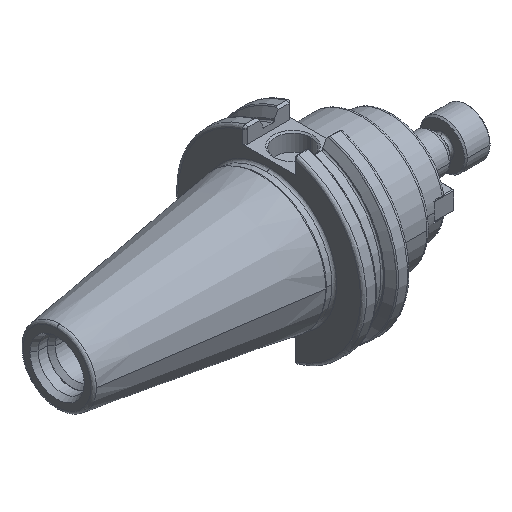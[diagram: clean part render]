
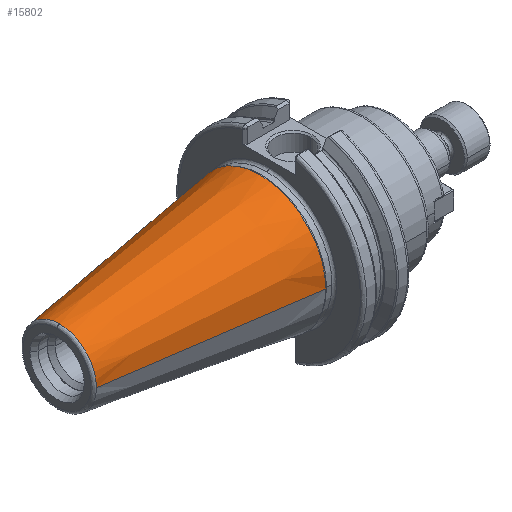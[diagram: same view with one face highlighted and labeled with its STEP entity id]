
A CAD part, isometric view. The second image highlights one B-rep face of the part: STEP entity #15802.
In plain terms, the highlighted conical face has half-angle 8.297 degrees and reference radius 22.225 mm.
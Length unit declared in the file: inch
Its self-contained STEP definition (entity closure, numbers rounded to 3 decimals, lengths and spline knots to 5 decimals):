
#306 = VECTOR ( 'NONE', #8852, 39.37008 ) ;
#415 = VERTEX_POINT ( 'NONE', #14983 ) ;
#707 = CARTESIAN_POINT ( 'NONE',  ( 0., 0.875, 0. ) ) ;
#2025 = CARTESIAN_POINT ( 'NONE',  ( 0., 0., 0. ) ) ;
#3071 = ORIENTED_EDGE ( 'NONE', *, *, #14013, .T. ) ;
#4152 = CARTESIAN_POINT ( 'NONE',  ( -2.65277, 0., 0. ) ) ;
#4821 = CARTESIAN_POINT ( 'NONE',  ( 0., -0.875, 0. ) ) ;
#5266 = CARTESIAN_POINT ( 'NONE',  ( -2.65277, 0., 0. ) ) ;
#5415 = AXIS2_PLACEMENT_3D ( 'NONE', #7047, #7682, #17685 ) ;
#5456 = EDGE_CURVE ( 'NONE', #9236, #13114, #9335, .T. ) ;
#5676 = CIRCLE ( 'NONE', #6584, 0.48814 ) ;
#5747 = VERTEX_POINT ( 'NONE', #13617 ) ;
#6584 = AXIS2_PLACEMENT_3D ( 'NONE', #5266, #16859, #17040 ) ;
#7047 = CARTESIAN_POINT ( 'NONE',  ( 0., 0., 0. ) ) ;
#7314 = FACE_OUTER_BOUND ( 'NONE', #15795, .T. ) ;
#7468 = ORIENTED_EDGE ( 'NONE', *, *, #14393, .T. ) ;
#7529 = VECTOR ( 'NONE', #15213, 39.37008 ) ;
#7682 = DIRECTION ( 'NONE',  ( 1., 0., 0. ) ) ;
#7799 = VERTEX_POINT ( 'NONE', #15462 ) ;
#8852 = DIRECTION ( 'NONE',  ( 0.99, -0.144, 0. ) ) ;
#9236 = VERTEX_POINT ( 'NONE', #12273 ) ;
#9319 = CONICAL_SURFACE ( 'NONE', #5415, 0.875, 0.145 ) ;
#9335 = LINE ( 'NONE', #707, #7529 ) ;
#11257 = DIRECTION ( 'NONE',  ( 1., 0., 0. ) ) ;
#11523 = AXIS2_PLACEMENT_3D ( 'NONE', #2025, #15975, #17569 ) ;
#12273 = CARTESIAN_POINT ( 'NONE',  ( -2.65277, 0.48814, 0. ) ) ;
#12343 = CIRCLE ( 'NONE', #18360, 0.48814 ) ;
#12344 = ORIENTED_EDGE ( 'NONE', *, *, #13009, .T. ) ;
#13009 = EDGE_CURVE ( 'NONE', #5747, #13114, #16337, .T. ) ;
#13114 = VERTEX_POINT ( 'NONE', #14841 ) ;
#13213 = LINE ( 'NONE', #4821, #306 ) ;
#13617 = CARTESIAN_POINT ( 'NONE',  ( 0., -0.875, 0. ) ) ;
#14013 = EDGE_CURVE ( 'NONE', #9236, #7799, #5676, .T. ) ;
#14192 = DIRECTION ( 'NONE',  ( 0., 1., 0. ) ) ;
#14393 = EDGE_CURVE ( 'NONE', #7799, #415, #12343, .T. ) ;
#14463 = EDGE_CURVE ( 'NONE', #415, #5747, #13213, .T. ) ;
#14841 = CARTESIAN_POINT ( 'NONE',  ( 0., 0.875, 0. ) ) ;
#14983 = CARTESIAN_POINT ( 'NONE',  ( -2.65277, -0.48814, 0. ) ) ;
#15213 = DIRECTION ( 'NONE',  ( 0.99, 0.144, 0. ) ) ;
#15462 = CARTESIAN_POINT ( 'NONE',  ( -2.65277, 0., 0.48814 ) ) ;
#15694 = ORIENTED_EDGE ( 'NONE', *, *, #14463, .T. ) ;
#15795 = EDGE_LOOP ( 'NONE', ( #3071, #7468, #15694, #12344, #18414 ) ) ;
#15802 = ADVANCED_FACE ( 'NONE', ( #7314 ), #9319, .T. ) ;
#15975 = DIRECTION ( 'NONE',  ( -1., 0., 0. ) ) ;
#16337 = CIRCLE ( 'NONE', #11523, 0.875 ) ;
#16859 = DIRECTION ( 'NONE',  ( 1., 0., 0. ) ) ;
#17040 = DIRECTION ( 'NONE',  ( 0., 1., 0. ) ) ;
#17569 = DIRECTION ( 'NONE',  ( 0., 1., 0. ) ) ;
#17685 = DIRECTION ( 'NONE',  ( 0., 1., 0. ) ) ;
#18360 = AXIS2_PLACEMENT_3D ( 'NONE', #4152, #11257, #14192 ) ;
#18414 = ORIENTED_EDGE ( 'NONE', *, *, #5456, .F. ) ;
